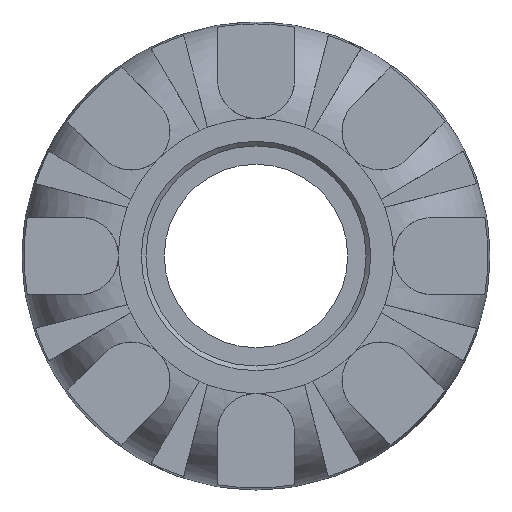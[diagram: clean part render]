
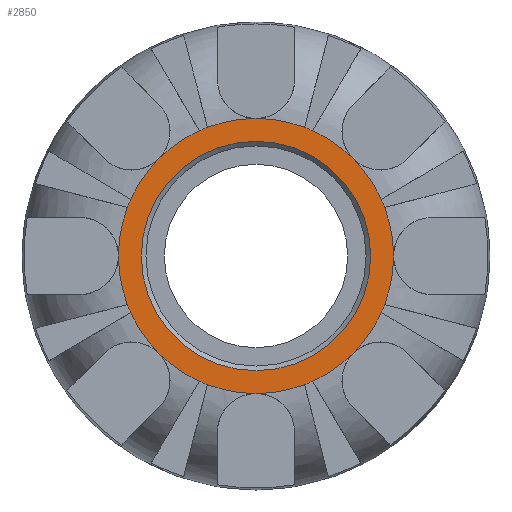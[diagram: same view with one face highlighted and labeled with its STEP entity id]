
A CAD part, left-side view. The second image highlights one B-rep face of the part: STEP entity #2850.
In plain terms, the highlighted planar face has unit normal (-1, 0, 0).
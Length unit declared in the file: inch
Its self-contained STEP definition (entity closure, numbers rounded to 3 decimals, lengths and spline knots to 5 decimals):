
#19=FACE_BOUND('',#619,.T.);
#34=PLANE('',#3049);
#454=FACE_OUTER_BOUND('',#618,.T.);
#618=EDGE_LOOP('',(#1823,#1824,#1825,#1826,#1827,#1828,#1829,#1830,#1831,
#1832,#1833,#1834,#1835,#1836,#1837,#1838,#1839,#1840,#1841,#1842,#1843,
#1844,#1845,#1846));
#619=EDGE_LOOP('',(#1847));
#785=CIRCLE('',#3046,0.45354);
#788=CIRCLE('',#3050,0.5438);
#789=CIRCLE('',#3051,0.5438);
#790=CIRCLE('',#3052,0.5438);
#791=CIRCLE('',#3053,0.5438);
#792=CIRCLE('',#3054,0.5438);
#793=CIRCLE('',#3055,0.5438);
#794=CIRCLE('',#3056,0.5438);
#795=CIRCLE('',#3057,0.5438);
#796=CIRCLE('',#3058,0.5438);
#797=CIRCLE('',#3059,0.5438);
#798=CIRCLE('',#3060,0.5438);
#799=CIRCLE('',#3061,0.5438);
#800=CIRCLE('',#3062,0.5438);
#801=CIRCLE('',#3063,0.5438);
#802=CIRCLE('',#3064,0.5438);
#803=CIRCLE('',#3065,0.5438);
#804=CIRCLE('',#3066,0.5438);
#805=CIRCLE('',#3067,0.5438);
#806=CIRCLE('',#3068,0.5438);
#807=CIRCLE('',#3069,0.5438);
#808=CIRCLE('',#3070,0.5438);
#809=CIRCLE('',#3071,0.5438);
#810=CIRCLE('',#3072,0.5438);
#811=CIRCLE('',#3073,0.5438);
#1077=VERTEX_POINT('',#4469);
#1080=VERTEX_POINT('',#4477);
#1081=VERTEX_POINT('',#4478);
#1082=VERTEX_POINT('',#4480);
#1083=VERTEX_POINT('',#4482);
#1084=VERTEX_POINT('',#4484);
#1085=VERTEX_POINT('',#4486);
#1086=VERTEX_POINT('',#4488);
#1087=VERTEX_POINT('',#4490);
#1088=VERTEX_POINT('',#4492);
#1089=VERTEX_POINT('',#4494);
#1090=VERTEX_POINT('',#4496);
#1091=VERTEX_POINT('',#4498);
#1092=VERTEX_POINT('',#4500);
#1093=VERTEX_POINT('',#4502);
#1094=VERTEX_POINT('',#4504);
#1095=VERTEX_POINT('',#4506);
#1096=VERTEX_POINT('',#4508);
#1097=VERTEX_POINT('',#4510);
#1098=VERTEX_POINT('',#4512);
#1099=VERTEX_POINT('',#4514);
#1100=VERTEX_POINT('',#4516);
#1101=VERTEX_POINT('',#4518);
#1102=VERTEX_POINT('',#4520);
#1103=VERTEX_POINT('',#4522);
#1363=EDGE_CURVE('',#1077,#1077,#785,.T.);
#1367=EDGE_CURVE('',#1080,#1081,#788,.T.);
#1368=EDGE_CURVE('',#1082,#1080,#789,.T.);
#1369=EDGE_CURVE('',#1083,#1082,#790,.T.);
#1370=EDGE_CURVE('',#1084,#1083,#791,.T.);
#1371=EDGE_CURVE('',#1085,#1084,#792,.T.);
#1372=EDGE_CURVE('',#1086,#1085,#793,.T.);
#1373=EDGE_CURVE('',#1087,#1086,#794,.T.);
#1374=EDGE_CURVE('',#1088,#1087,#795,.T.);
#1375=EDGE_CURVE('',#1089,#1088,#796,.T.);
#1376=EDGE_CURVE('',#1090,#1089,#797,.T.);
#1377=EDGE_CURVE('',#1091,#1090,#798,.T.);
#1378=EDGE_CURVE('',#1092,#1091,#799,.T.);
#1379=EDGE_CURVE('',#1093,#1092,#800,.T.);
#1380=EDGE_CURVE('',#1094,#1093,#801,.T.);
#1381=EDGE_CURVE('',#1095,#1094,#802,.T.);
#1382=EDGE_CURVE('',#1096,#1095,#803,.T.);
#1383=EDGE_CURVE('',#1097,#1096,#804,.T.);
#1384=EDGE_CURVE('',#1098,#1097,#805,.T.);
#1385=EDGE_CURVE('',#1099,#1098,#806,.T.);
#1386=EDGE_CURVE('',#1100,#1099,#807,.T.);
#1387=EDGE_CURVE('',#1101,#1100,#808,.T.);
#1388=EDGE_CURVE('',#1102,#1101,#809,.T.);
#1389=EDGE_CURVE('',#1103,#1102,#810,.T.);
#1390=EDGE_CURVE('',#1081,#1103,#811,.T.);
#1823=ORIENTED_EDGE('',*,*,#1367,.F.);
#1824=ORIENTED_EDGE('',*,*,#1368,.F.);
#1825=ORIENTED_EDGE('',*,*,#1369,.F.);
#1826=ORIENTED_EDGE('',*,*,#1370,.F.);
#1827=ORIENTED_EDGE('',*,*,#1371,.F.);
#1828=ORIENTED_EDGE('',*,*,#1372,.F.);
#1829=ORIENTED_EDGE('',*,*,#1373,.F.);
#1830=ORIENTED_EDGE('',*,*,#1374,.F.);
#1831=ORIENTED_EDGE('',*,*,#1375,.F.);
#1832=ORIENTED_EDGE('',*,*,#1376,.F.);
#1833=ORIENTED_EDGE('',*,*,#1377,.F.);
#1834=ORIENTED_EDGE('',*,*,#1378,.F.);
#1835=ORIENTED_EDGE('',*,*,#1379,.F.);
#1836=ORIENTED_EDGE('',*,*,#1380,.F.);
#1837=ORIENTED_EDGE('',*,*,#1381,.F.);
#1838=ORIENTED_EDGE('',*,*,#1382,.F.);
#1839=ORIENTED_EDGE('',*,*,#1383,.F.);
#1840=ORIENTED_EDGE('',*,*,#1384,.F.);
#1841=ORIENTED_EDGE('',*,*,#1385,.F.);
#1842=ORIENTED_EDGE('',*,*,#1386,.F.);
#1843=ORIENTED_EDGE('',*,*,#1387,.F.);
#1844=ORIENTED_EDGE('',*,*,#1388,.F.);
#1845=ORIENTED_EDGE('',*,*,#1389,.F.);
#1846=ORIENTED_EDGE('',*,*,#1390,.F.);
#1847=ORIENTED_EDGE('',*,*,#1363,.F.);
#2850=ADVANCED_FACE('',(#454,#19),#34,.T.);
#3046=AXIS2_PLACEMENT_3D('',#4470,#3418,#3419);
#3049=AXIS2_PLACEMENT_3D('',#4476,#3425,#3426);
#3050=AXIS2_PLACEMENT_3D('',#4479,#3427,#3428);
#3051=AXIS2_PLACEMENT_3D('',#4481,#3429,#3430);
#3052=AXIS2_PLACEMENT_3D('',#4483,#3431,#3432);
#3053=AXIS2_PLACEMENT_3D('',#4485,#3433,#3434);
#3054=AXIS2_PLACEMENT_3D('',#4487,#3435,#3436);
#3055=AXIS2_PLACEMENT_3D('',#4489,#3437,#3438);
#3056=AXIS2_PLACEMENT_3D('',#4491,#3439,#3440);
#3057=AXIS2_PLACEMENT_3D('',#4493,#3441,#3442);
#3058=AXIS2_PLACEMENT_3D('',#4495,#3443,#3444);
#3059=AXIS2_PLACEMENT_3D('',#4497,#3445,#3446);
#3060=AXIS2_PLACEMENT_3D('',#4499,#3447,#3448);
#3061=AXIS2_PLACEMENT_3D('',#4501,#3449,#3450);
#3062=AXIS2_PLACEMENT_3D('',#4503,#3451,#3452);
#3063=AXIS2_PLACEMENT_3D('',#4505,#3453,#3454);
#3064=AXIS2_PLACEMENT_3D('',#4507,#3455,#3456);
#3065=AXIS2_PLACEMENT_3D('',#4509,#3457,#3458);
#3066=AXIS2_PLACEMENT_3D('',#4511,#3459,#3460);
#3067=AXIS2_PLACEMENT_3D('',#4513,#3461,#3462);
#3068=AXIS2_PLACEMENT_3D('',#4515,#3463,#3464);
#3069=AXIS2_PLACEMENT_3D('',#4517,#3465,#3466);
#3070=AXIS2_PLACEMENT_3D('',#4519,#3467,#3468);
#3071=AXIS2_PLACEMENT_3D('',#4521,#3469,#3470);
#3072=AXIS2_PLACEMENT_3D('',#4523,#3471,#3472);
#3073=AXIS2_PLACEMENT_3D('',#4524,#3473,#3474);
#3418=DIRECTION('center_axis',(-1.,0.,0.));
#3419=DIRECTION('ref_axis',(0.,-1.,0.));
#3425=DIRECTION('center_axis',(-1.,0.,0.));
#3426=DIRECTION('ref_axis',(0.,0.,1.));
#3427=DIRECTION('center_axis',(1.,0.,0.));
#3428=DIRECTION('ref_axis',(0.,0.,-1.));
#3429=DIRECTION('center_axis',(1.,0.,0.));
#3430=DIRECTION('ref_axis',(0.,0.,-1.));
#3431=DIRECTION('center_axis',(1.,0.,0.));
#3432=DIRECTION('ref_axis',(0.,0.,-1.));
#3433=DIRECTION('center_axis',(1.,0.,0.));
#3434=DIRECTION('ref_axis',(0.,0.,-1.));
#3435=DIRECTION('center_axis',(1.,0.,0.));
#3436=DIRECTION('ref_axis',(0.,0.,-1.));
#3437=DIRECTION('center_axis',(1.,0.,0.));
#3438=DIRECTION('ref_axis',(0.,0.,-1.));
#3439=DIRECTION('center_axis',(1.,0.,0.));
#3440=DIRECTION('ref_axis',(0.,0.,-1.));
#3441=DIRECTION('center_axis',(1.,0.,0.));
#3442=DIRECTION('ref_axis',(0.,0.,-1.));
#3443=DIRECTION('center_axis',(1.,0.,0.));
#3444=DIRECTION('ref_axis',(0.,0.,-1.));
#3445=DIRECTION('center_axis',(1.,0.,0.));
#3446=DIRECTION('ref_axis',(0.,0.,-1.));
#3447=DIRECTION('center_axis',(1.,0.,0.));
#3448=DIRECTION('ref_axis',(0.,0.,-1.));
#3449=DIRECTION('center_axis',(1.,0.,0.));
#3450=DIRECTION('ref_axis',(0.,0.,-1.));
#3451=DIRECTION('center_axis',(1.,0.,0.));
#3452=DIRECTION('ref_axis',(0.,0.,-1.));
#3453=DIRECTION('center_axis',(1.,0.,0.));
#3454=DIRECTION('ref_axis',(0.,0.,-1.));
#3455=DIRECTION('center_axis',(1.,0.,0.));
#3456=DIRECTION('ref_axis',(0.,0.,-1.));
#3457=DIRECTION('center_axis',(1.,0.,0.));
#3458=DIRECTION('ref_axis',(0.,0.,-1.));
#3459=DIRECTION('center_axis',(1.,0.,0.));
#3460=DIRECTION('ref_axis',(0.,0.,-1.));
#3461=DIRECTION('center_axis',(1.,0.,0.));
#3462=DIRECTION('ref_axis',(0.,0.,-1.));
#3463=DIRECTION('center_axis',(1.,0.,0.));
#3464=DIRECTION('ref_axis',(0.,0.,-1.));
#3465=DIRECTION('center_axis',(1.,0.,0.));
#3466=DIRECTION('ref_axis',(0.,0.,-1.));
#3467=DIRECTION('center_axis',(1.,0.,0.));
#3468=DIRECTION('ref_axis',(0.,0.,-1.));
#3469=DIRECTION('center_axis',(1.,0.,0.));
#3470=DIRECTION('ref_axis',(0.,0.,-1.));
#3471=DIRECTION('center_axis',(1.,0.,0.));
#3472=DIRECTION('ref_axis',(0.,0.,-1.));
#3473=DIRECTION('center_axis',(1.,0.,0.));
#3474=DIRECTION('ref_axis',(0.,0.,-1.));
#4469=CARTESIAN_POINT('',(-1.925,0.45354,0.));
#4470=CARTESIAN_POINT('Origin',(-1.925,0.,0.));
#4476=CARTESIAN_POINT('Origin',(-1.925,0.5438,0.));
#4477=CARTESIAN_POINT('',(-1.925,0.5438,0.));
#4478=CARTESIAN_POINT('',(-1.925,0.50881,0.19192));
#4479=CARTESIAN_POINT('Origin',(-1.925,0.,0.));
#4480=CARTESIAN_POINT('',(-1.925,0.50881,-0.19192));
#4481=CARTESIAN_POINT('Origin',(-1.925,0.,0.));
#4482=CARTESIAN_POINT('',(-1.925,0.49549,-0.22407));
#4483=CARTESIAN_POINT('Origin',(-1.925,0.,0.));
#4484=CARTESIAN_POINT('',(-1.925,0.38452,-0.38452));
#4485=CARTESIAN_POINT('Origin',(-1.925,0.,0.));
#4486=CARTESIAN_POINT('',(-1.925,0.22407,-0.49549));
#4487=CARTESIAN_POINT('Origin',(-1.925,0.,0.));
#4488=CARTESIAN_POINT('',(-1.925,0.19192,-0.50881));
#4489=CARTESIAN_POINT('Origin',(-1.925,0.,0.));
#4490=CARTESIAN_POINT('',(-1.925,0.,-0.5438));
#4491=CARTESIAN_POINT('Origin',(-1.925,0.,0.));
#4492=CARTESIAN_POINT('',(-1.925,-0.19192,-0.50881));
#4493=CARTESIAN_POINT('Origin',(-1.925,0.,0.));
#4494=CARTESIAN_POINT('',(-1.925,-0.22407,-0.49549));
#4495=CARTESIAN_POINT('Origin',(-1.925,0.,0.));
#4496=CARTESIAN_POINT('',(-1.925,-0.38452,-0.38452));
#4497=CARTESIAN_POINT('Origin',(-1.925,0.,0.));
#4498=CARTESIAN_POINT('',(-1.925,-0.49549,-0.22407));
#4499=CARTESIAN_POINT('Origin',(-1.925,0.,0.));
#4500=CARTESIAN_POINT('',(-1.925,-0.50881,-0.19192));
#4501=CARTESIAN_POINT('Origin',(-1.925,0.,0.));
#4502=CARTESIAN_POINT('',(-1.925,-0.5438,0.));
#4503=CARTESIAN_POINT('Origin',(-1.925,0.,0.));
#4504=CARTESIAN_POINT('',(-1.925,-0.50881,0.19192));
#4505=CARTESIAN_POINT('Origin',(-1.925,0.,0.));
#4506=CARTESIAN_POINT('',(-1.925,-0.49549,0.22407));
#4507=CARTESIAN_POINT('Origin',(-1.925,0.,0.));
#4508=CARTESIAN_POINT('',(-1.925,-0.38452,0.38452));
#4509=CARTESIAN_POINT('Origin',(-1.925,0.,0.));
#4510=CARTESIAN_POINT('',(-1.925,-0.22407,0.49549));
#4511=CARTESIAN_POINT('Origin',(-1.925,0.,0.));
#4512=CARTESIAN_POINT('',(-1.925,-0.19192,0.50881));
#4513=CARTESIAN_POINT('Origin',(-1.925,0.,0.));
#4514=CARTESIAN_POINT('',(-1.925,0.,0.5438));
#4515=CARTESIAN_POINT('Origin',(-1.925,0.,0.));
#4516=CARTESIAN_POINT('',(-1.925,0.19192,0.50881));
#4517=CARTESIAN_POINT('Origin',(-1.925,0.,0.));
#4518=CARTESIAN_POINT('',(-1.925,0.22407,0.49549));
#4519=CARTESIAN_POINT('Origin',(-1.925,0.,0.));
#4520=CARTESIAN_POINT('',(-1.925,0.38452,0.38452));
#4521=CARTESIAN_POINT('Origin',(-1.925,0.,0.));
#4522=CARTESIAN_POINT('',(-1.925,0.49549,0.22407));
#4523=CARTESIAN_POINT('Origin',(-1.925,0.,0.));
#4524=CARTESIAN_POINT('Origin',(-1.925,0.,0.));
